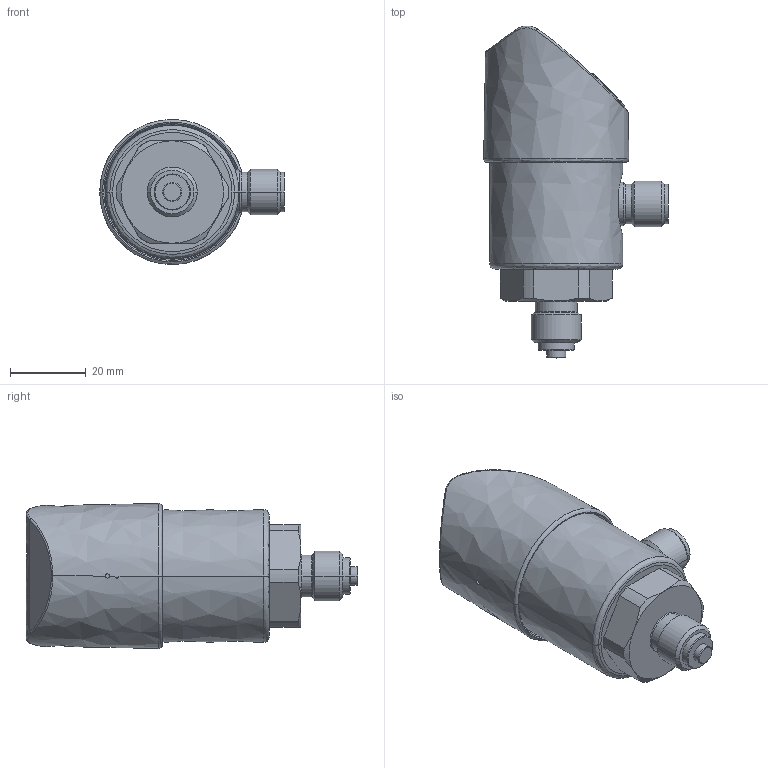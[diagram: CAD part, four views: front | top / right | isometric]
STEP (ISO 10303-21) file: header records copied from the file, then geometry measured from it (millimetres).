
FILE_DESCRIPTION((''),'2;1');
FILE_NAME('TR02342_______________SW0001','2015-06-26T',('EicherN'),(''),'PRO/ENGINEER BY PARAMETRIC TECHNOLOGY CORPORATION, 2013230','PRO/ENGINEER BY PARAMETRIC TECHNOLOGY CORPORATION, 2013230','');
FILE_SCHEMA(('AUTOMOTIVE_DESIGN { 1 0 10303 214 1 1 1 1 }'));
Products named in the file (1): TR02342_______________SW0001
Bounding box: 48.61 x 87.36 x 38.21 mm (x, y, z)
Volume: 45817.9 mm3; surface area: 22604 mm2
Topology: 1 solids, 1 shells, 1605 faces, 4382 edges, 2805 vertices
Faces by surface type: bspline 1605
Entity records: 82793 total; most frequent: CARTESIAN_POINT 49146, ORIENTED_EDGE 8744, EDGE_CURVE 4372, DIRECTION 3552, VERTEX_POINT 2805, VECTOR 2298, LINE 2298, EDGE_LOOP 1681
